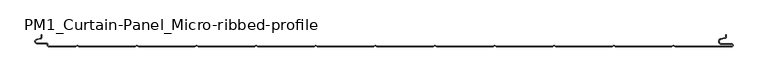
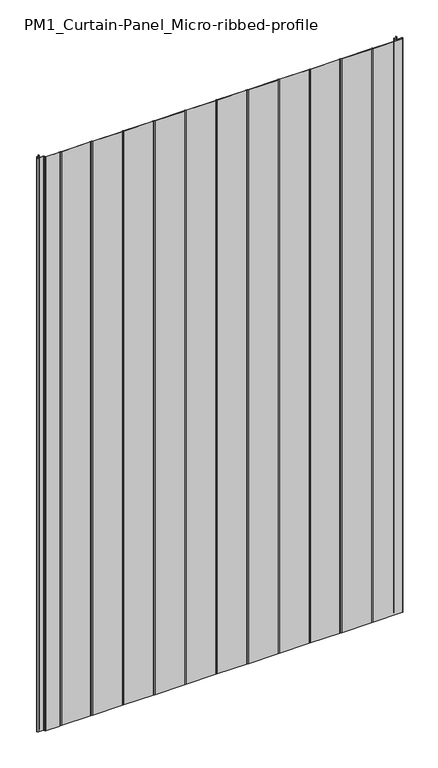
"""IFC4 building model written with IfcOpenShell, lengths in millimetres: plate geometry, PM1_Curtain-Panel_Micro-ribbed-profile : ACH_PM1_Acoustic-Sectioning-Panel_60M."""

from ifc_helpers import new_model, si_unit, frame, origin, place, context, project, spatial, polyline, circle_curve, source, transform, mapped, element, save
from ifc_brep_helpers import plane_surface, cylinder_surface, revolved_surface, advanced_brep


def pm1_curtain_panel_micro_ribbed_profile_37213962(model_context):
    return source(origin(), model_context, "Body", "AdvancedBrep", [
        advanced_brep(
        [(-575.0, -44.121443, 1945.7507136), (-576.5500978, -46.0701831, 1945.7507136), (-582.7098239, -47.492268, 1945.7507136), (-581.9, -54.6, 1945.7507136), (-566.4, -54.6, 1945.7507136), (-564.4, -56.6, 1945.7507136), (-564.4, -58.0, 1945.7507136), (-562.4, -60.0, 1945.7507136), (-517.0999995, -60.0, 1945.7507136), (-514.4, -58.4411545, 1945.7507136), (-511.7000005, -60.0, 1945.7507136), (-417.0999995, -60.0, 1945.7507136), (-414.4, -58.4411545, 1945.7507136), (-411.7000005, -60.0, 1945.7507136), (-317.0999995, -60.0, 1945.7507136), (-314.4, -58.4411545, 1945.7507136), (-311.7000005, -60.0, 1945.7507136), (-217.0999995, -60.0, 1945.7507136), (-214.4, -58.4411545, 1945.7507136), (-211.7000005, -60.0, 1945.7507136), (-117.0999995, -60.0, 1945.7507136), (-114.4, -58.4411545, 1945.7507136), (-111.7000005, -60.0, 1945.7507136), (-17.0999995, -60.0, 1945.7507136), (-14.4, -58.4411545, 1945.7507136), (-11.7000005, -60.0, 1945.7507136), (82.9000005, -60.0, 1945.7507136), (85.6, -58.4411545, 1945.7507136), (88.2999995, -60.0, 1945.7507136), (182.9000005, -60.0, 1945.7507136), (185.6, -58.4411545, 1945.7507136), (188.2999995, -60.0, 1945.7507136), (282.9000005, -60.0, 1945.7507136), (285.6, -58.4411545, 1945.7507136), (288.2999995, -60.0, 1945.7507136), (382.9000005, -60.0, 1945.7507136), (385.6, -58.4411545, 1945.7507136), (388.2999995, -60.0, 1945.7507136), (482.9000005, -60.0, 1945.7507136), (485.6, -58.4411545, 1945.7507136), (488.2999995, -60.0, 1945.7507136), (583.1, -60.0, 1945.7507136), (585.6, -57.5, 1945.7507136), (583.1, -55.0, 1945.7507136), (566.1, -55.0, 1945.7507136), (565.405407, -47.060769, 1945.7507136), (571.8514855, -45.9241509, 1945.7507136), (574.0, -43.3636508, 1945.7507136), (574.0, -40.0, 1945.7507136), (573.2, -40.0, 1945.7507136), (573.2, -43.3636508, 1945.7507136), (571.7125669, -45.1363047, 1945.7507136), (565.2664884, -46.2729228, 1945.7507136), (566.1, -55.8, 1945.7507136), (583.1, -55.8, 1945.7507136), (583.1, -59.2, 1945.7507136), (488.5143588, -59.2, 1945.7507136), (485.6, -57.517394, 1945.7507136), (482.6856412, -59.2, 1945.7507136), (388.5143588, -59.2, 1945.7507136), (385.6, -57.517394, 1945.7507136), (382.6856412, -59.2, 1945.7507136), (288.5143588, -59.2, 1945.7507136), (285.6, -57.517394, 1945.7507136), (282.6856412, -59.2, 1945.7507136), (188.5143588, -59.2, 1945.7507136), (185.6, -57.517394, 1945.7507136), (182.6856412, -59.2, 1945.7507136), (88.5143588, -59.2, 1945.7507136), (85.6, -57.517394, 1945.7507136), (82.6856412, -59.2, 1945.7507136), (-11.4856412, -59.2, 1945.7507136), (-14.4, -57.517394, 1945.7507136), (-17.3143588, -59.2, 1945.7507136), (-111.4856412, -59.2, 1945.7507136), (-114.4, -57.517394, 1945.7507136), (-117.3143588, -59.2, 1945.7507136), (-211.4856412, -59.2, 1945.7507136), (-214.4, -57.517394, 1945.7507136), (-217.3143588, -59.2, 1945.7507136), (-311.4856412, -59.2, 1945.7507136), (-314.4, -57.517394, 1945.7507136), (-317.3143588, -59.2, 1945.7507136), (-411.4856412, -59.2, 1945.7507136), (-414.4, -57.517394, 1945.7507136), (-417.3143588, -59.2, 1945.7507136), (-511.4856412, -59.2, 1945.7507136), (-514.4, -57.517394, 1945.7507136), (-517.3143588, -59.2, 1945.7507136), (-562.4, -59.2, 1945.7507136), (-563.6, -58.0, 1945.7507136), (-563.6, -56.6, 1945.7507136), (-566.4, -53.8, 1945.7507136), (-581.9, -53.8, 1945.7507136), (-582.529863, -48.2717638, 1945.7507136), (-576.370137, -46.849679, 1945.7507136), (-574.2, -44.121443, 1945.7507136), (-574.2, -40.0, 1945.7507136), (-575.0, -40.0, 1945.7507136), (-575.0, -44.121443, 0.0), (-575.0, -40.0, 0.0), (-574.2, -40.0, 0.0), (-574.2, -44.121443, 0.0), (-576.370137, -46.8496792, 0.0), (-582.529863, -48.271764, 0.0), (-581.9, -53.8, 0.0), (-566.4, -53.8, 0.0), (-563.6, -56.6, 0.0), (-563.6, -58.0, 0.0), (-562.4, -59.2, 0.0), (-517.3143588, -59.2, 0.0), (-514.4, -57.517394, 0.0), (-511.4856412, -59.2, 0.0), (-417.3143588, -59.2, 0.0), (-414.4, -57.517394, 0.0), (-411.4856412, -59.2, 0.0), (-317.3143588, -59.2, 0.0), (-314.4, -57.517394, 0.0), (-311.4856412, -59.2, 0.0), (-217.3143588, -59.2, 0.0), (-214.4, -57.517394, 0.0), (-211.4856412, -59.2, 0.0), (-117.3143588, -59.2, 0.0), (-114.4, -57.517394, 0.0), (-111.4856412, -59.2, 0.0), (-17.3143588, -59.2, 0.0), (-14.4, -57.517394, 0.0), (-11.4856412, -59.2, 0.0), (82.6856412, -59.2, 0.0), (85.6, -57.517394, 0.0), (88.5143588, -59.2, 0.0), (182.6856412, -59.2, 0.0), (185.6, -57.517394, 0.0), (188.5143588, -59.2, 0.0), (282.6856412, -59.2, 0.0), (285.6, -57.517394, 0.0), (288.5143588, -59.2, 0.0), (382.6856412, -59.2, 0.0), (385.6, -57.517394, 0.0), (388.5143588, -59.2, 0.0), (482.6856412, -59.2, 0.0), (485.6, -57.517394, 0.0), (488.5143588, -59.2, 0.0), (583.1, -59.2, 0.0), (583.1, -55.8, 0.0), (566.1, -55.8, 0.0), (565.2664884, -46.2729229, 0.0), (571.7125669, -45.1363047, 0.0), (573.2, -43.3636508, 0.0), (573.2, -40.0, 0.0), (574.0, -40.0, 0.0), (574.0, -43.3636508, 0.0), (571.8514855, -45.9241509, 0.0), (565.405407, -47.060769, 0.0), (566.1, -55.0, 0.0), (583.1, -55.0, 0.0), (585.6, -57.5, 0.0), (583.1, -60.0, 0.0), (488.2999995, -60.0, 0.0), (485.6, -58.4411545, 0.0), (482.9000005, -60.0, 0.0), (388.2999995, -60.0, 0.0), (385.6, -58.4411545, 0.0), (382.9000005, -60.0, 0.0), (288.2999995, -60.0, 0.0), (285.6, -58.4411545, 0.0), (282.9000005, -60.0, 0.0), (188.2999995, -60.0, 0.0), (185.6, -58.4411545, 0.0), (182.9000005, -60.0, 0.0), (88.2999995, -60.0, 0.0), (85.6, -58.4411545, 0.0), (82.9000005, -60.0, 0.0), (-11.7000005, -60.0, 0.0), (-14.4, -58.4411545, 0.0), (-17.0999995, -60.0, 0.0), (-111.7000005, -60.0, 0.0), (-114.4, -58.4411545, 0.0), (-117.0999995, -60.0, 0.0), (-211.7000005, -60.0, 0.0), (-214.4, -58.4411545, 0.0), (-217.0999995, -60.0, 0.0), (-311.7000005, -60.0, 0.0), (-314.4, -58.4411545, 0.0), (-317.0999995, -60.0, 0.0), (-411.7000005, -60.0, 0.0), (-414.4, -58.4411545, 0.0), (-417.0999995, -60.0, 0.0), (-511.7000005, -60.0, 0.0), (-514.4, -58.4411545, 0.0), (-517.0999995, -60.0, 0.0), (-562.4, -60.0, 0.0), (-564.4, -58.0, 0.0), (-564.4, -56.6, 0.0), (-566.4, -54.6, 0.0), (-581.9, -54.6, 0.0), (-582.7098239, -47.4922678, 0.0), (-576.5500979, -46.070183, 0.0)],
        [
            (0, 1, circle_curve(frame((-577.0, -44.121443, 1945.7507136), z_axis=(0.0, 0.0, -1.0), x_axis=(1.0, 0.0, 0.0)), 2.0)),
            (1, 2),
            (2, 3, circle_curve(frame((-581.9, -51.0, 1945.7507136), z_axis=(0.0, 0.0, 1.0), x_axis=(1.0, 0.0, 0.0)), 3.6)),
            (3, 4),
            (4, 5, circle_curve(frame((-566.4, -56.6, 1945.7507136), z_axis=(0.0, 0.0, -1.0), x_axis=(1.0, 0.0, 0.0)), 2.0)),
            (5, 6),
            (6, 7, circle_curve(frame((-562.4, -58.0, 1945.7507136), z_axis=(0.0, 0.0, 1.0), x_axis=(1.0, 0.0, 0.0)), 2.0)),
            (7, 8),
            (8, 9),
            (9, 10),
            (10, 11),
            (11, 12),
            (12, 13),
            (13, 14),
            (14, 15),
            (15, 16),
            (16, 17),
            (17, 18),
            (18, 19),
            (19, 20),
            (20, 21),
            (21, 22),
            (22, 23),
            (23, 24),
            (24, 25),
            (25, 26),
            (26, 27),
            (27, 28),
            (28, 29),
            (29, 30),
            (30, 31),
            (31, 32),
            (32, 33),
            (33, 34),
            (34, 35),
            (35, 36),
            (36, 37),
            (37, 38),
            (38, 39),
            (39, 40),
            (40, 41),
            (41, 42, circle_curve(frame((583.1, -57.5, 1945.7507136), z_axis=(0.0, 0.0, 1.0), x_axis=(1.0, 0.0, 0.0)), 2.5)),
            (42, 43, circle_curve(frame((583.1, -57.5, 1945.7507136), z_axis=(0.0, 0.0, 1.0), x_axis=(1.0, 0.0, 0.0)), 2.5)),
            (43, 44),
            (44, 45, circle_curve(frame((566.1, -51.0, 1945.7507136), z_axis=(0.0, 0.0, -1.0), x_axis=(1.0, 0.0, 0.0)), 4.0)),
            (45, 46),
            (46, 47, circle_curve(frame((571.4, -43.3636508, 1945.7507136), z_axis=(0.0, 0.0, 1.0), x_axis=(1.0, 0.0, 0.0)), 2.6)),
            (47, 48),
            (48, 49),
            (49, 50),
            (50, 51, circle_curve(frame((571.4, -43.3636508, 1945.7507136), z_axis=(0.0, 0.0, -1.0), x_axis=(1.0, 0.0, 0.0)), 1.8)),
            (51, 52),
            (52, 53, circle_curve(frame((566.1, -51.0, 1945.7507136), z_axis=(0.0, 0.0, 1.0), x_axis=(1.0, 0.0, 0.0)), 4.8)),
            (53, 54),
            (54, 55, circle_curve(frame((583.1, -57.5, 1945.7507136), z_axis=(0.0, 0.0, -1.0), x_axis=(1.0, 0.0, 0.0)), 1.7)),
            (55, 56),
            (56, 57),
            (57, 58),
            (58, 59),
            (59, 60),
            (60, 61),
            (61, 62),
            (62, 63),
            (63, 64),
            (64, 65),
            (65, 66),
            (66, 67),
            (67, 68),
            (68, 69),
            (69, 70),
            (70, 71),
            (71, 72),
            (72, 73),
            (73, 74),
            (74, 75),
            (75, 76),
            (76, 77),
            (77, 78),
            (78, 79),
            (79, 80),
            (80, 81),
            (81, 82),
            (82, 83),
            (83, 84),
            (84, 85),
            (85, 86),
            (86, 87),
            (87, 88),
            (88, 89),
            (89, 90, circle_curve(frame((-562.4, -58.0, 1945.7507136), z_axis=(0.0, 0.0, -1.0), x_axis=(1.0, 0.0, 0.0)), 1.2)),
            (90, 91),
            (91, 92, circle_curve(frame((-566.4, -56.6, 1945.7507136), z_axis=(0.0, 0.0, 1.0), x_axis=(1.0, 0.0, 0.0)), 2.8)),
            (92, 93),
            (93, 94, circle_curve(frame((-581.9, -51.0, 1945.7507136), z_axis=(0.0, 0.0, -1.0), x_axis=(1.0, 0.0, 0.0)), 2.8)),
            (94, 95),
            (95, 96, circle_curve(frame((-577.0, -44.121443, 1945.7507136), z_axis=(0.0, 0.0, 1.0), x_axis=(1.0, 0.0, 0.0)), 2.8)),
            (96, 97),
            (97, 98),
            (98, 0),
            (99, 100),
            (100, 101),
            (101, 102),
            (102, 103, circle_curve(frame((-577.0, -44.121443, 0.0), z_axis=(0.0, 0.0, -1.0), x_axis=(1.0, 0.0, 0.0)), 2.8)),
            (103, 104),
            (104, 105, circle_curve(frame((-581.9, -51.0, 0.0), z_axis=(0.0, 0.0, 1.0), x_axis=(1.0, 0.0, 0.0)), 2.8)),
            (105, 106),
            (106, 107, circle_curve(frame((-566.4, -56.6, 0.0), z_axis=(0.0, 0.0, -1.0), x_axis=(1.0, 0.0, 0.0)), 2.8)),
            (107, 108),
            (108, 109, circle_curve(frame((-562.4, -58.0, 0.0), z_axis=(0.0, 0.0, 1.0), x_axis=(1.0, 0.0, 0.0)), 1.2)),
            (109, 110),
            (110, 111),
            (111, 112),
            (112, 113),
            (113, 114),
            (114, 115),
            (115, 116),
            (116, 117),
            (117, 118),
            (118, 119),
            (119, 120),
            (120, 121),
            (121, 122),
            (122, 123),
            (123, 124),
            (124, 125),
            (125, 126),
            (126, 127),
            (127, 128),
            (128, 129),
            (129, 130),
            (130, 131),
            (131, 132),
            (132, 133),
            (133, 134),
            (134, 135),
            (135, 136),
            (136, 137),
            (137, 138),
            (138, 139),
            (139, 140),
            (140, 141),
            (141, 142),
            (142, 143),
            (143, 144, circle_curve(frame((583.1, -57.5, 0.0), z_axis=(0.0, 0.0, 1.0), x_axis=(1.0, 0.0, 0.0)), 1.7)),
            (144, 145),
            (145, 146, circle_curve(frame((566.1, -51.0, 0.0), z_axis=(0.0, 0.0, -1.0), x_axis=(1.0, 0.0, 0.0)), 4.8)),
            (146, 147),
            (147, 148, circle_curve(frame((571.4, -43.3636508, 0.0), z_axis=(0.0, 0.0, 1.0), x_axis=(1.0, 0.0, 0.0)), 1.8)),
            (148, 149),
            (149, 150),
            (150, 151),
            (151, 152, circle_curve(frame((571.4, -43.3636508, 0.0), z_axis=(0.0, 0.0, -1.0), x_axis=(1.0, 0.0, 0.0)), 2.6)),
            (152, 153),
            (153, 154, circle_curve(frame((566.1, -51.0, 0.0), z_axis=(0.0, 0.0, 1.0), x_axis=(1.0, 0.0, 0.0)), 4.0)),
            (154, 155),
            (155, 156, circle_curve(frame((583.1, -57.5, 0.0), z_axis=(0.0, 0.0, -1.0), x_axis=(1.0, 0.0, 0.0)), 2.5)),
            (156, 157, circle_curve(frame((583.1, -57.5, 0.0), z_axis=(0.0, 0.0, -1.0), x_axis=(1.0, 0.0, 0.0)), 2.5)),
            (157, 158),
            (158, 159),
            (159, 160),
            (160, 161),
            (161, 162),
            (162, 163),
            (163, 164),
            (164, 165),
            (165, 166),
            (166, 167),
            (167, 168),
            (168, 169),
            (169, 170),
            (170, 171),
            (171, 172),
            (172, 173),
            (173, 174),
            (174, 175),
            (175, 176),
            (176, 177),
            (177, 178),
            (178, 179),
            (179, 180),
            (180, 181),
            (181, 182),
            (182, 183),
            (183, 184),
            (184, 185),
            (185, 186),
            (186, 187),
            (187, 188),
            (188, 189),
            (189, 190),
            (190, 191),
            (191, 192, circle_curve(frame((-562.4, -58.0, 0.0), z_axis=(0.0, 0.0, -1.0), x_axis=(1.0, 0.0, 0.0)), 2.0)),
            (192, 193),
            (193, 194, circle_curve(frame((-566.4, -56.6, 0.0), z_axis=(0.0, 0.0, 1.0), x_axis=(1.0, 0.0, 0.0)), 2.0)),
            (194, 195),
            (195, 196, circle_curve(frame((-581.9, -51.0, 0.0), z_axis=(0.0, 0.0, -1.0), x_axis=(1.0, 0.0, 0.0)), 3.6)),
            (196, 197),
            (197, 99, circle_curve(frame((-577.0, -44.121443, 0.0), z_axis=(0.0, 0.0, 1.0), x_axis=(1.0, 0.0, 0.0)), 2.0)),
            (0, 99),
            (197, 1),
            (196, 2),
            (195, 3),
            (194, 4),
            (193, 5),
            (192, 6),
            (191, 7),
            (190, 8),
            (189, 9),
            (188, 10),
            (187, 11),
            (186, 12),
            (185, 13),
            (184, 14),
            (183, 15),
            (182, 16),
            (181, 17),
            (180, 18),
            (179, 19),
            (178, 20),
            (177, 21),
            (176, 22),
            (175, 23),
            (174, 24),
            (173, 25),
            (172, 26),
            (171, 27),
            (170, 28),
            (169, 29),
            (168, 30),
            (167, 31),
            (166, 32),
            (165, 33),
            (164, 34),
            (163, 35),
            (162, 36),
            (161, 37),
            (160, 38),
            (159, 39),
            (158, 40),
            (157, 41),
            (155, 43),
            (154, 44),
            (153, 45),
            (152, 46),
            (151, 47),
            (150, 48),
            (149, 49),
            (148, 50),
            (147, 51),
            (146, 52),
            (145, 53),
            (144, 54),
            (143, 55),
            (142, 56),
            (141, 57),
            (140, 58),
            (139, 59),
            (138, 60),
            (137, 61),
            (136, 62),
            (135, 63),
            (134, 64),
            (133, 65),
            (132, 66),
            (131, 67),
            (130, 68),
            (129, 69),
            (128, 70),
            (127, 71),
            (126, 72),
            (125, 73),
            (124, 74),
            (123, 75),
            (122, 76),
            (121, 77),
            (120, 78),
            (119, 79),
            (118, 80),
            (117, 81),
            (116, 82),
            (115, 83),
            (114, 84),
            (113, 85),
            (112, 86),
            (111, 87),
            (110, 88),
            (109, 89),
            (108, 90),
            (107, 91),
            (106, 92),
            (105, 93),
            (104, 94),
            (103, 95),
            (102, 96),
            (101, 97),
            (100, 98),
        ],
        [
            plane_surface(frame((-575.0, -60.0, 1945.7507136), z_axis=(0.0, 0.0, 1.0), x_axis=(0.0, 1.0, 0.0))),
            plane_surface(frame((-575.0, -60.0, 0.0), z_axis=(0.0, 0.0, -1.0), x_axis=(0.0, 1.0, 0.0))),
            revolved_surface(polyline([(-575.0, -44.121443, 0.0), (-575.0, -44.121443, 1945.7507136)]), (-577.0, -44.121443, 1945.7507136), (0.0, 0.0, -1.0)),
            plane_surface(frame((-576.5500979, -46.070183, 1945.7507136), z_axis=(-0.22495108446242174, 0.9743700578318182, 0.0), x_axis=(0.0, 0.0, -1.0))),
            cylinder_surface(frame((-581.9, -51.0, 1945.7507136), z_axis=(0.0, 0.0, 1.0), x_axis=(1.0, 0.0, 0.0)), 3.6),
            plane_surface(frame((-581.9, -54.6, 1945.7507136), z_axis=(0.0, -1.0, 0.0), x_axis=(0.0, 0.0, -1.0))),
            revolved_surface(polyline([(-564.4, -56.6, 0.0), (-564.4, -56.6, 1945.7507136)]), (-566.4, -56.6, 1945.7507136), (0.0, 0.0, -1.0)),
            plane_surface(frame((-564.4, -56.6, 1945.7507136), z_axis=(-1.0, 0.0, 0.0), x_axis=(0.0, 0.0, -1.0))),
            cylinder_surface(frame((-562.4, -58.0, 1945.7507136), z_axis=(0.0, 0.0, 1.0), x_axis=(1.0, 0.0, 0.0)), 2.0),
            plane_surface(frame((-562.4, -60.0, 1945.7507136), z_axis=(0.0, -1.0, 0.0), x_axis=(0.0, 0.0, -1.0))),
            plane_surface(frame((-517.0999995, -60.0, 1945.7507136), z_axis=(0.5000000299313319, -0.8660253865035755, 0.0), x_axis=(0.0, 0.0, -1.0))),
            plane_surface(frame((-514.4, -58.4411545, 1945.7507136), z_axis=(-0.5000000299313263, -0.8660253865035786, 0.0), x_axis=(0.0, 0.0, -1.0))),
            plane_surface(frame((-511.7000005, -60.0, 1945.7507136), z_axis=(0.0, -1.0, 0.0), x_axis=(0.0, 0.0, -1.0))),
            plane_surface(frame((-417.0999995, -60.0, 1945.7507136), z_axis=(0.5000000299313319, -0.8660253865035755, 0.0), x_axis=(0.0, 0.0, -1.0))),
            plane_surface(frame((-414.4, -58.4411545, 1945.7507136), z_axis=(-0.5000000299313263, -0.8660253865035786, 0.0), x_axis=(0.0, 0.0, -1.0))),
            plane_surface(frame((-411.7000005, -60.0, 1945.7507136), z_axis=(0.0, -1.0, 0.0), x_axis=(0.0, 0.0, -1.0))),
            plane_surface(frame((-317.0999995, -60.0, 1945.7507136), z_axis=(0.5000000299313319, -0.8660253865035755, 0.0), x_axis=(0.0, 0.0, -1.0))),
            plane_surface(frame((-314.4, -58.4411545, 1945.7507136), z_axis=(-0.5000000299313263, -0.8660253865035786, 0.0), x_axis=(0.0, 0.0, -1.0))),
            plane_surface(frame((-311.7000005, -60.0, 1945.7507136), z_axis=(0.0, -1.0, 0.0), x_axis=(0.0, 0.0, -1.0))),
            plane_surface(frame((-217.0999995, -60.0, 1945.7507136), z_axis=(0.5000000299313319, -0.8660253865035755, 0.0), x_axis=(0.0, 0.0, -1.0))),
            plane_surface(frame((-214.4, -58.4411545, 1945.7507136), z_axis=(-0.5000000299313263, -0.8660253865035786, 0.0), x_axis=(0.0, 0.0, -1.0))),
            plane_surface(frame((-211.7000005, -60.0, 1945.7507136), z_axis=(0.0, -1.0, 0.0), x_axis=(0.0, 0.0, -1.0))),
            plane_surface(frame((-117.0999995, -60.0, 1945.7507136), z_axis=(0.5000000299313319, -0.8660253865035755, 0.0), x_axis=(0.0, 0.0, -1.0))),
            plane_surface(frame((-114.4, -58.4411545, 1945.7507136), z_axis=(-0.5000000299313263, -0.8660253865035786, 0.0), x_axis=(0.0, 0.0, -1.0))),
            plane_surface(frame((-111.7000005, -60.0, 1945.7507136), z_axis=(0.0, -1.0, 0.0), x_axis=(0.0, 0.0, -1.0))),
            plane_surface(frame((-17.0999995, -60.0, 1945.7507136), z_axis=(0.5000000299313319, -0.8660253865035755, 0.0), x_axis=(0.0, 0.0, -1.0))),
            plane_surface(frame((-14.4, -58.4411545, 1945.7507136), z_axis=(-0.5000000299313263, -0.8660253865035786, 0.0), x_axis=(0.0, 0.0, -1.0))),
            plane_surface(frame((-11.7000005, -60.0, 1945.7507136), z_axis=(0.0, -1.0, 0.0), x_axis=(0.0, 0.0, -1.0))),
            plane_surface(frame((82.9000005, -60.0, 1945.7507136), z_axis=(0.5000000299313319, -0.8660253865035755, 0.0), x_axis=(0.0, 0.0, -1.0))),
            plane_surface(frame((85.6, -58.4411545, 1945.7507136), z_axis=(-0.5000000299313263, -0.8660253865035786, 0.0), x_axis=(0.0, 0.0, -1.0))),
            plane_surface(frame((88.2999995, -60.0, 1945.7507136), z_axis=(0.0, -1.0, 0.0), x_axis=(0.0, 0.0, -1.0))),
            plane_surface(frame((182.9000005, -60.0, 1945.7507136), z_axis=(0.5000000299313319, -0.8660253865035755, 0.0), x_axis=(0.0, 0.0, -1.0))),
            plane_surface(frame((185.6, -58.4411545, 1945.7507136), z_axis=(-0.5000000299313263, -0.8660253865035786, 0.0), x_axis=(0.0, 0.0, -1.0))),
            plane_surface(frame((188.2999995, -60.0, 1945.7507136), z_axis=(0.0, -1.0, 0.0), x_axis=(0.0, 0.0, -1.0))),
            plane_surface(frame((282.9000005, -60.0, 1945.7507136), z_axis=(0.5000000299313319, -0.8660253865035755, 0.0), x_axis=(0.0, 0.0, -1.0))),
            plane_surface(frame((285.6, -58.4411545, 1945.7507136), z_axis=(-0.5000000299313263, -0.8660253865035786, 0.0), x_axis=(0.0, 0.0, -1.0))),
            plane_surface(frame((288.2999995, -60.0, 1945.7507136), z_axis=(0.0, -1.0, 0.0), x_axis=(0.0, 0.0, -1.0))),
            plane_surface(frame((382.9000005, -60.0, 1945.7507136), z_axis=(0.5000000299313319, -0.8660253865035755, 0.0), x_axis=(0.0, 0.0, -1.0))),
            plane_surface(frame((385.6, -58.4411545, 1945.7507136), z_axis=(-0.5000000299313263, -0.8660253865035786, 0.0), x_axis=(0.0, 0.0, -1.0))),
            plane_surface(frame((388.2999995, -60.0, 1945.7507136), z_axis=(0.0, -1.0, 0.0), x_axis=(0.0, 0.0, -1.0))),
            plane_surface(frame((482.9000005, -60.0, 1945.7507136), z_axis=(0.5000000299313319, -0.8660253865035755, 0.0), x_axis=(0.0, 0.0, -1.0))),
            plane_surface(frame((485.6, -58.4411545, 1945.7507136), z_axis=(-0.5000000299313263, -0.8660253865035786, 0.0), x_axis=(0.0, 0.0, -1.0))),
            plane_surface(frame((535.6, -60.0, 1945.7507136), z_axis=(0.0, -1.0, 0.0), x_axis=(0.0, 0.0, -1.0))),
            cylinder_surface(frame((583.1, -57.5, 1945.7507136), z_axis=(0.0, 0.0, 1.0), x_axis=(1.0, 0.0, 0.0)), 2.5),
            plane_surface(frame((583.1, -55.0, 1945.7507136), z_axis=(0.0, 1.0, 0.0), x_axis=(0.0, 0.0, -1.0))),
            revolved_surface(polyline([(570.1, -51.0, 0.0), (570.1, -51.0, 1945.7507136)]), (566.1, -51.0, 1945.7507136), (0.0, 0.0, -1.0)),
            plane_surface(frame((565.405407, -47.060769, 1945.7507136), z_axis=(0.17364825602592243, -0.9848077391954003, 0.0), x_axis=(0.0, 0.0, -1.0))),
            cylinder_surface(frame((571.4, -43.3636508, 1945.7507136), z_axis=(0.0, 0.0, 1.0), x_axis=(1.0, 0.0, 0.0)), 2.6),
            plane_surface(frame((574.0, -43.3636508, 1945.7507136), z_axis=(1.0, 0.0, 0.0), x_axis=(0.0, 0.0, -1.0))),
            plane_surface(frame((574.0, -40.0, 1945.7507136), z_axis=(0.0, 1.0, 0.0), x_axis=(0.0, 0.0, -1.0))),
            plane_surface(frame((573.2, -40.0, 1945.7507136), z_axis=(-1.0, 0.0, 0.0), x_axis=(0.0, 0.0, -1.0))),
            revolved_surface(polyline([(573.1999999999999, -43.3636508, 0.0), (573.1999999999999, -43.3636508, 1945.7507136)]), (571.4, -43.3636508, 1945.7507136), (0.0, 0.0, -1.0)),
            plane_surface(frame((571.7125669, -45.1363047, 1945.7507136), z_axis=(-0.17364825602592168, 0.9848077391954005, 0.0), x_axis=(0.0, 0.0, -1.0))),
            cylinder_surface(frame((566.1, -51.0, 1945.7507136), z_axis=(0.0, 0.0, 1.0), x_axis=(1.0, 0.0, 0.0)), 4.8),
            plane_surface(frame((566.1, -55.8, 1945.7507136), z_axis=(0.0, -1.0, 0.0), x_axis=(0.0, 0.0, -1.0))),
            revolved_surface(polyline([(584.8000000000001, -57.5, 0.0), (584.8000000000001, -57.5, 1945.7507136)]), (583.1, -57.5, 1945.7507136), (0.0, 0.0, -1.0)),
            plane_surface(frame((535.6, -59.2, 1945.7507136), z_axis=(0.0, 1.0, 0.0), x_axis=(0.0, 0.0, -1.0))),
            plane_surface(frame((488.5143588, -59.2, 1945.7507136), z_axis=(0.5000000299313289, 0.8660253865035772, 0.0), x_axis=(0.0, 0.0, -1.0))),
            plane_surface(frame((485.6, -57.517394, 1945.7507136), z_axis=(-0.5000000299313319, 0.8660253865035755, 0.0), x_axis=(0.0, 0.0, -1.0))),
            plane_surface(frame((482.6856412, -59.2, 1945.7507136), z_axis=(0.0, 1.0, 0.0), x_axis=(0.0, 0.0, -1.0))),
            plane_surface(frame((388.5143588, -59.2, 1945.7507136), z_axis=(0.5000000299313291, 0.8660253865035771, 0.0), x_axis=(0.0, 0.0, -1.0))),
            plane_surface(frame((385.6, -57.517394, 1945.7507136), z_axis=(-0.500000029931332, 0.8660253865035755, 0.0), x_axis=(0.0, 0.0, -1.0))),
            plane_surface(frame((382.6856412, -59.2, 1945.7507136), z_axis=(0.0, 1.0, 0.0), x_axis=(0.0, 0.0, -1.0))),
            plane_surface(frame((288.5143588, -59.2, 1945.7507136), z_axis=(0.5000000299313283, 0.8660253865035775, 0.0), x_axis=(0.0, 0.0, -1.0))),
            plane_surface(frame((285.6, -57.517394, 1945.7507136), z_axis=(-0.5000000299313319, 0.8660253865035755, 0.0), x_axis=(0.0, 0.0, -1.0))),
            plane_surface(frame((282.6856412, -59.2, 1945.7507136), z_axis=(0.0, 1.0, 0.0), x_axis=(0.0, 0.0, -1.0))),
            plane_surface(frame((188.5143588, -59.2, 1945.7507136), z_axis=(0.5000000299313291, 0.8660253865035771, 0.0), x_axis=(0.0, 0.0, -1.0))),
            plane_surface(frame((185.6, -57.517394, 1945.7507136), z_axis=(-0.5000000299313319, 0.8660253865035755, 0.0), x_axis=(0.0, 0.0, -1.0))),
            plane_surface(frame((182.6856412, -59.2, 1945.7507136), z_axis=(0.0, 1.0, 0.0), x_axis=(0.0, 0.0, -1.0))),
            plane_surface(frame((88.5143588, -59.2, 1945.7507136), z_axis=(0.5000000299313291, 0.8660253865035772, 0.0), x_axis=(0.0, 0.0, -1.0))),
            plane_surface(frame((85.6, -57.517394, 1945.7507136), z_axis=(-0.5000000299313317, 0.8660253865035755, 0.0), x_axis=(0.0, 0.0, -1.0))),
            plane_surface(frame((82.6856412, -59.2, 1945.7507136), z_axis=(0.0, 1.0, 0.0), x_axis=(0.0, 0.0, -1.0))),
            plane_surface(frame((-11.4856412, -59.2, 1945.7507136), z_axis=(0.500000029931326, 0.8660253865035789, 0.0), x_axis=(0.0, 0.0, -1.0))),
            plane_surface(frame((-14.4, -57.517394, 1945.7507136), z_axis=(-0.500000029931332, 0.8660253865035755, 0.0), x_axis=(0.0, 0.0, -1.0))),
            plane_surface(frame((-17.3143588, -59.2, 1945.7507136), z_axis=(0.0, 1.0, 0.0), x_axis=(0.0, 0.0, -1.0))),
            plane_surface(frame((-111.4856412, -59.2, 1945.7507136), z_axis=(0.5000000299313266, 0.8660253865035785, 0.0), x_axis=(0.0, 0.0, -1.0))),
            plane_surface(frame((-114.4, -57.517394, 1945.7507136), z_axis=(-0.5000000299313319, 0.8660253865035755, 0.0), x_axis=(0.0, 0.0, -1.0))),
            plane_surface(frame((-117.3143588, -59.2, 1945.7507136), z_axis=(0.0, 1.0, 0.0), x_axis=(0.0, 0.0, -1.0))),
            plane_surface(frame((-211.4856412, -59.2, 1945.7507136), z_axis=(0.5000000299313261, 0.8660253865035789, 0.0), x_axis=(0.0, 0.0, -1.0))),
            plane_surface(frame((-214.4, -57.517394, 1945.7507136), z_axis=(-0.500000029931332, 0.8660253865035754, 0.0), x_axis=(0.0, 0.0, -1.0))),
            plane_surface(frame((-217.3143588, -59.2, 1945.7507136), z_axis=(0.0, 1.0, 0.0), x_axis=(0.0, 0.0, -1.0))),
            plane_surface(frame((-311.4856412, -59.2, 1945.7507136), z_axis=(0.5000000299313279, 0.8660253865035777, 0.0), x_axis=(0.0, 0.0, -1.0))),
            plane_surface(frame((-314.4, -57.517394, 1945.7507136), z_axis=(-0.5000000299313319, 0.8660253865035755, 0.0), x_axis=(0.0, 0.0, -1.0))),
            plane_surface(frame((-317.3143588, -59.2, 1945.7507136), z_axis=(0.0, 1.0, 0.0), x_axis=(0.0, 0.0, -1.0))),
            plane_surface(frame((-411.4856412, -59.2, 1945.7507136), z_axis=(0.5000000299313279, 0.8660253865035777, 0.0), x_axis=(0.0, 0.0, -1.0))),
            plane_surface(frame((-414.4, -57.517394, 1945.7507136), z_axis=(-0.5000000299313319, 0.8660253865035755, 0.0), x_axis=(0.0, 0.0, -1.0))),
            plane_surface(frame((-417.3143588, -59.2, 1945.7507136), z_axis=(0.0, 1.0, 0.0), x_axis=(0.0, 0.0, -1.0))),
            plane_surface(frame((-511.4856412, -59.2, 1945.7507136), z_axis=(0.5000000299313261, 0.8660253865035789, 0.0), x_axis=(0.0, 0.0, -1.0))),
            plane_surface(frame((-514.4, -57.517394, 1945.7507136), z_axis=(-0.5000000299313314, 0.8660253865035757, 0.0), x_axis=(0.0, 0.0, -1.0))),
            plane_surface(frame((-517.3143588, -59.2, 1945.7507136), z_axis=(0.0, 1.0, 0.0), x_axis=(0.0, 0.0, -1.0))),
            revolved_surface(polyline([(-561.1999999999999, -58.0, 0.0), (-561.1999999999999, -58.0, 1945.7507136)]), (-562.4, -58.0, 1945.7507136), (0.0, 0.0, -1.0)),
            plane_surface(frame((-563.6, -58.0, 1945.7507136), z_axis=(1.0, 0.0, 0.0), x_axis=(0.0, 0.0, -1.0))),
            cylinder_surface(frame((-566.4, -56.6, 1945.7507136), z_axis=(0.0, 0.0, 1.0), x_axis=(1.0, 0.0, 0.0)), 2.8),
            plane_surface(frame((-566.4, -53.8, 1945.7507136), z_axis=(0.0, 1.0, 0.0), x_axis=(0.0, 0.0, -1.0))),
            revolved_surface(polyline([(-579.1, -51.0, 0.0), (-579.1, -51.0, 1945.7507136)]), (-581.9, -51.0, 1945.7507136), (0.0, 0.0, -1.0)),
            plane_surface(frame((-582.529863, -48.271764, 1945.7507136), z_axis=(0.22495108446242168, -0.9743700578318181, 0.0), x_axis=(0.0, 0.0, -1.0))),
            cylinder_surface(frame((-577.0, -44.121443, 1945.7507136), z_axis=(0.0, 0.0, 1.0), x_axis=(1.0, 0.0, 0.0)), 2.8),
            plane_surface(frame((-574.2, -44.121443, 1945.7507136), z_axis=(1.0, 0.0, 0.0), x_axis=(0.0, 0.0, -1.0))),
            plane_surface(frame((-574.2, -40.0, 1945.7507136), z_axis=(0.0, 1.0, 0.0), x_axis=(0.0, 0.0, -1.0))),
            plane_surface(frame((-575.0, -40.0, 1945.7507136), z_axis=(-1.0, 0.0, 0.0), x_axis=(0.0, 0.0, -1.0))),
        ],
        [
            (0, [[1, 2, 3, 4, 5, 6, 7, 8, 9, 10, 11, 12, 13, 14, 15, 16, 17, 18, 19, 20, 21, 22, 23, 24, 25, 26, 27, 28, 29, 30, 31, 32, 33, 34, 35, 36, 37, 38, 39, 40, 41, 42, 43, 44, 45, 46, 47, 48, 49, 50, 51, 52, 53, 54, 55, 56, 57, 58, 59, 60, 61, 62, 63, 64, 65, 66, 67, 68, 69, 70, 71, 72, 73, 74, 75, 76, 77, 78, 79, 80, 81, 82, 83, 84, 85, 86, 87, 88, 89, 90, 91, 92, 93, 94, 95, 96, 97, 98, 99]]),
            (1, [[100, 101, 102, 103, 104, 105, 106, 107, 108, 109, 110, 111, 112, 113, 114, 115, 116, 117, 118, 119, 120, 121, 122, 123, 124, 125, 126, 127, 128, 129, 130, 131, 132, 133, 134, 135, 136, 137, 138, 139, 140, 141, 142, 143, 144, 145, 146, 147, 148, 149, 150, 151, 152, 153, 154, 155, 156, 157, 158, 159, 160, 161, 162, 163, 164, 165, 166, 167, 168, 169, 170, 171, 172, 173, 174, 175, 176, 177, 178, 179, 180, 181, 182, 183, 184, 185, 186, 187, 188, 189, 190, 191, 192, 193, 194, 195, 196, 197, 198]]),
            (2, [[-1, 199, -198, 200]]),
            (3, [[-2, -200, -197, 201]]),
            (4, [[-3, -201, -196, 202]]),
            (5, [[-4, -202, -195, 203]]),
            (6, [[-5, -203, -194, 204]]),
            (7, [[-6, -204, -193, 205]]),
            (8, [[-7, -205, -192, 206]]),
            (9, [[-8, -206, -191, 207]]),
            (10, [[-9, -207, -190, 208]]),
            (11, [[-10, -208, -189, 209]]),
            (12, [[-11, -209, -188, 210]]),
            (13, [[-12, -210, -187, 211]]),
            (14, [[-13, -211, -186, 212]]),
            (15, [[-14, -212, -185, 213]]),
            (16, [[-15, -213, -184, 214]]),
            (17, [[-16, -214, -183, 215]]),
            (18, [[-17, -215, -182, 216]]),
            (19, [[-18, -216, -181, 217]]),
            (20, [[-19, -217, -180, 218]]),
            (21, [[-20, -218, -179, 219]]),
            (22, [[-21, -219, -178, 220]]),
            (23, [[-22, -220, -177, 221]]),
            (24, [[-23, -221, -176, 222]]),
            (25, [[-24, -222, -175, 223]]),
            (26, [[-25, -223, -174, 224]]),
            (27, [[-26, -224, -173, 225]]),
            (28, [[-27, -225, -172, 226]]),
            (29, [[-28, -226, -171, 227]]),
            (30, [[-29, -227, -170, 228]]),
            (31, [[-30, -228, -169, 229]]),
            (32, [[-31, -229, -168, 230]]),
            (33, [[-32, -230, -167, 231]]),
            (34, [[-33, -231, -166, 232]]),
            (35, [[-34, -232, -165, 233]]),
            (36, [[-35, -233, -164, 234]]),
            (37, [[-36, -234, -163, 235]]),
            (38, [[-37, -235, -162, 236]]),
            (39, [[-38, -236, -161, 237]]),
            (40, [[-39, -237, -160, 238]]),
            (41, [[-40, -238, -159, 239]]),
            (42, [[-41, -239, -158, 240]]),
            (43, [[-240, -157, -156, 241, -43, -42]]),
            (44, [[-44, -241, -155, 242]]),
            (45, [[-45, -242, -154, 243]]),
            (46, [[-46, -243, -153, 244]]),
            (47, [[-47, -244, -152, 245]]),
            (48, [[-48, -245, -151, 246]]),
            (49, [[-49, -246, -150, 247]]),
            (50, [[-50, -247, -149, 248]]),
            (51, [[-51, -248, -148, 249]]),
            (52, [[-52, -249, -147, 250]]),
            (53, [[-53, -250, -146, 251]]),
            (54, [[-54, -251, -145, 252]]),
            (55, [[-55, -252, -144, 253]]),
            (56, [[-56, -253, -143, 254]]),
            (57, [[-57, -254, -142, 255]]),
            (58, [[-58, -255, -141, 256]]),
            (59, [[-59, -256, -140, 257]]),
            (60, [[-60, -257, -139, 258]]),
            (61, [[-61, -258, -138, 259]]),
            (62, [[-62, -259, -137, 260]]),
            (63, [[-63, -260, -136, 261]]),
            (64, [[-64, -261, -135, 262]]),
            (65, [[-65, -262, -134, 263]]),
            (66, [[-66, -263, -133, 264]]),
            (67, [[-67, -264, -132, 265]]),
            (68, [[-68, -265, -131, 266]]),
            (69, [[-69, -266, -130, 267]]),
            (70, [[-70, -267, -129, 268]]),
            (71, [[-71, -268, -128, 269]]),
            (72, [[-72, -269, -127, 270]]),
            (73, [[-73, -270, -126, 271]]),
            (74, [[-74, -271, -125, 272]]),
            (75, [[-75, -272, -124, 273]]),
            (76, [[-76, -273, -123, 274]]),
            (77, [[-77, -274, -122, 275]]),
            (78, [[-78, -275, -121, 276]]),
            (79, [[-79, -276, -120, 277]]),
            (80, [[-80, -277, -119, 278]]),
            (81, [[-81, -278, -118, 279]]),
            (82, [[-82, -279, -117, 280]]),
            (83, [[-83, -280, -116, 281]]),
            (84, [[-84, -281, -115, 282]]),
            (85, [[-85, -282, -114, 283]]),
            (86, [[-86, -283, -113, 284]]),
            (87, [[-87, -284, -112, 285]]),
            (88, [[-88, -285, -111, 286]]),
            (89, [[-89, -286, -110, 287]]),
            (90, [[-90, -287, -109, 288]]),
            (91, [[-91, -288, -108, 289]]),
            (92, [[-92, -289, -107, 290]]),
            (93, [[-93, -290, -106, 291]]),
            (94, [[-94, -291, -105, 292]]),
            (95, [[-95, -292, -104, 293]]),
            (96, [[-96, -293, -103, 294]]),
            (97, [[-97, -294, -102, 295]]),
            (98, [[-98, -295, -101, 296]]),
            (99, [[-99, -296, -100, -199]]),
        ],
    ),
    ])


if __name__ == "__main__":
    model = new_model("IFC4")
    model_context = context("Model", 3, world=origin())
    ifc_project = project(units=[si_unit("LENGTHUNIT", "METRE", prefix="MILLI")], contexts=[model_context])
    site = spatial("IfcSite", under=ifc_project)
    building = spatial("IfcBuilding", under=site)
    placement = place(None, origin())
    pm1_curtain_panel_micro_ribbed_profile_shape = pm1_curtain_panel_micro_ribbed_profile_37213962(model_context)
    element("IfcPlate", 1, ObjectType="PM1_Curtain-Panel_Micro-ribbed-profile : ACH_PM1_Acoustic-Sectioning-Panel_60M", at=placement, inside=building, context=model_context, shape_type="MappedRepresentation", body=[
        mapped(pm1_curtain_panel_micro_ribbed_profile_shape, transform((0.0, 0.0, 0.0), x_axis=(1.0, 0.0, 0.0), y_axis=(0.0, 1.0, 0.0), z_axis=(0.0, 0.0, 1.0))),
    ])
    save(model, "model.ifc")
